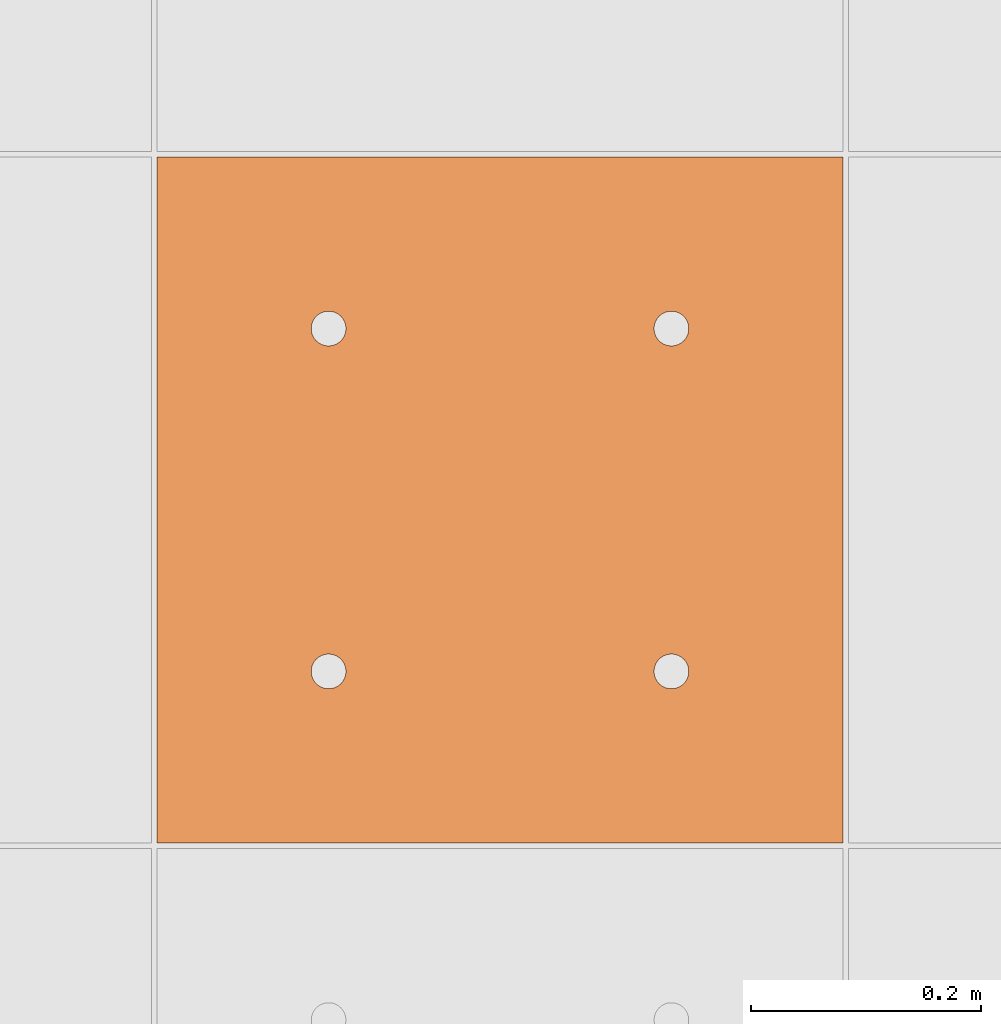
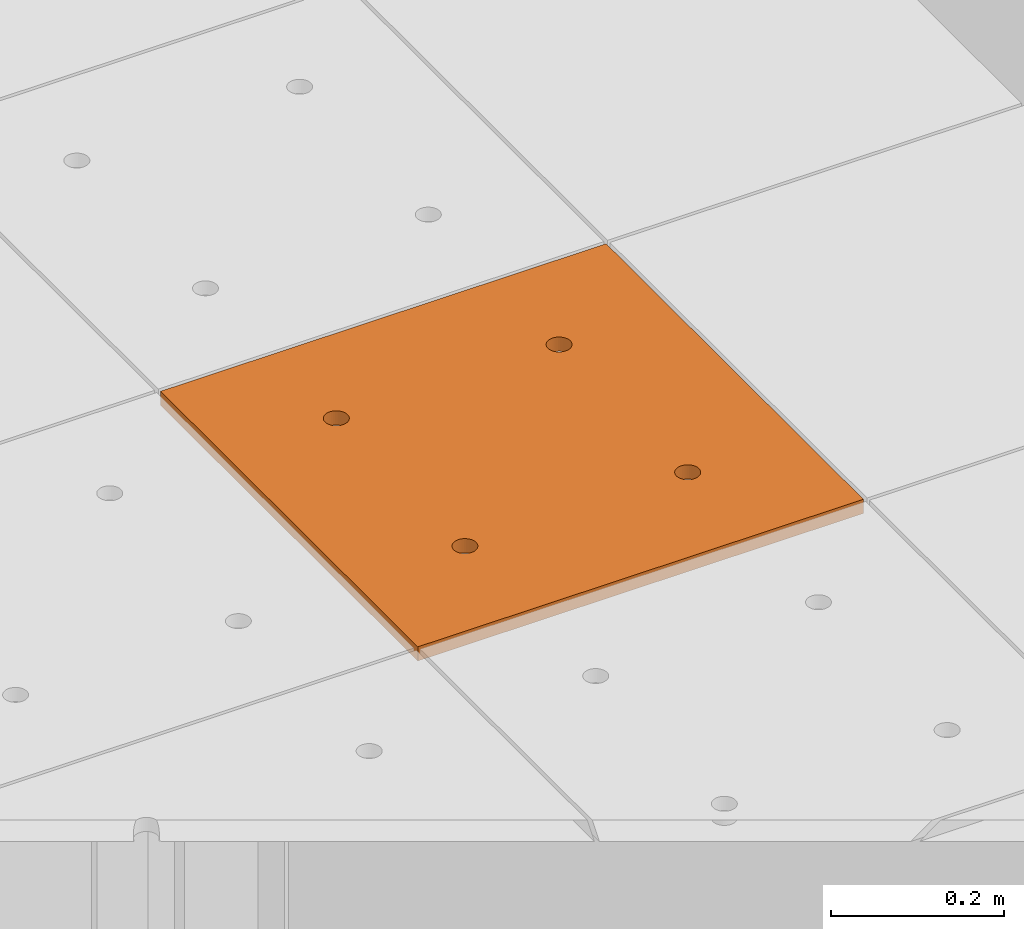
# One storey, part 306 of 338: 1 proxy, 1 element without a shape of its own.
"""IFC2X3 building model written with IfcOpenShell, lengths in millimetres."""

from ifc_helpers import new_model, entity, si_unit, converted_unit, derived_unit, money_unit, direction, frame, origin_with_axes, place, context, subcontext, project, spatial, faceted_brep, source, transform, mapped, material, type_object, type_shapes, element, aggregate, save


model = new_model("IFC2X3")

# Units and contexts
model_context = context("Model", 3, precision=0.01, world=origin_with_axes(), true_north=direction((0.0, 1.0)))
plan_context = context("Plan", 3, precision=0.01, world=origin_with_axes(), true_north=direction((0.0, 1.0)))
body_context = subcontext(model_context, "Body", "Model", "MODEL_VIEW")
ifc_project = project(units=[si_unit("LENGTHUNIT", "METRE", prefix="MILLI"), si_unit("AREAUNIT", "SQUARE_METRE"), si_unit("VOLUMEUNIT", "CUBIC_METRE"), converted_unit("PLANEANGLEUNIT", "DEGREE", entity("IfcPlaneAngleMeasure", 0.0174532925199), si_unit("PLANEANGLEUNIT", "RADIAN"), dimensions=[0, 0, 0, 0, 0, 0, 0]), money_unit("EUR"), converted_unit("TIMEUNIT", "Year", entity("IfcTimeMeasure", 31556926.0), si_unit("TIMEUNIT", "SECOND"), dimensions=[0, 0, 1, 0, 0, 0, 0]), si_unit("MASSUNIT", "GRAM", prefix="KILO"), si_unit("THERMODYNAMICTEMPERATUREUNIT", "DEGREE_CELSIUS"), si_unit("LUMINOUSINTENSITYUNIT", "LUMEN"), si_unit("ENERGYUNIT", "JOULE", prefix="MEGA"), derived_unit("THERMALCONDUCTANCEUNIT", [(si_unit("POWERUNIT", "WATT"), 1), (si_unit("LENGTHUNIT", "METRE"), -1), (si_unit("THERMODYNAMICTEMPERATUREUNIT", "KELVIN"), -1)]), derived_unit("SPECIFICHEATCAPACITYUNIT", [(si_unit("ENERGYUNIT", "JOULE"), 1), (si_unit("MASSUNIT", "GRAM", prefix="KILO"), -1), (si_unit("THERMODYNAMICTEMPERATUREUNIT", "KELVIN"), -1)]), derived_unit("MASSDENSITYUNIT", [(si_unit("MASSUNIT", "GRAM", prefix="KILO"), 1), (si_unit("VOLUMEUNIT", "CUBIC_METRE"), -1)])], contexts=[model_context, plan_context])

# Site, building, storey
site_placement = place(None, origin_with_axes())
site = spatial("IfcSite", under=ifc_project, at=site_placement, Name="Fortuinstraat Woensdrecht", CompositionType="ELEMENT")
building_placement = place(site_placement, origin_with_axes())
building = spatial("IfcBuilding", under=site, at=building_placement, Name="IKC Fortuna", CompositionType="ELEMENT")
storey_placement = place(building_placement, origin_with_axes())
storey = spatial("IfcBuildingStorey", under=building, at=storey_placement, Name="00 begane grond", CompositionType="ELEMENT", Elevation=0.0)

# Covering, proxy
covering_type = type_object("IfcCoveringType", Name="Curtain Wall Type", PredefinedType="CEILING")
covering_placement = place(storey_placement, frame((24394.3550152, 31482.3495284, 3210.0), z_axis=(0.0, 0.0, 1.0), x_axis=(1.0, 0.0, 0.0)))
covering = element("IfcCovering", 1, at=covering_placement, inside=storey, type_object=covering_type, Name="45_Plafondafwerking_P01", PredefinedType="CEILING")
ifc_material = material(Name="Gipsplaat")
building_element_proxy_type = type_object("IfcBuildingElementProxyType", Name="Main Panel 600 x 600 x 20", PredefinedType="NOTDEFINED")
shared_shape = source(origin_with_axes(), body_context, "Body", "Brep", [
    faceted_brep([(2.49999999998, 2.49999999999, -10.0), (300.0, 2.49999999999, -10.0), (300.0, 2.49999999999, 10.0), (2.49999999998, 2.49999999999, 10.0), (2.49999999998, 300.0, -10.0), (2.49999999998, 597.5, -10.0), (300.0, 597.5, -10.0), (597.5, 597.5, -10.0), (597.5, 300.0, -10.0), (597.5, 2.49999999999, -10.0), (166.25, 450.06232995, -10.0), (165.79423259, 452.64711538, -10.0), (164.896546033, 455.11348892, -10.0), (163.58421608, 457.38651108, -10.0), (161.897117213, 459.39711721, -10.0), (159.886511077, 461.08421608, -10.0), (157.613488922, 462.39654603, -10.0), (155.147115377, 463.29423259, -10.0), (152.562329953, 463.75, -10.0), (149.937670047, 463.75, -10.0), (147.352884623, 463.29423259, -10.0), (144.886511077, 462.39654603, -10.0), (142.613488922, 461.08421608, -10.0), (140.602882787, 459.39711721, -10.0), (138.91578392, 457.38651108, -10.0), (137.603453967, 455.11348892, -10.0), (136.705767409, 452.64711538, -10.0), (136.25, 450.06232995, -10.0), (136.25, 448.75, -10.0), (136.25, 447.43767005, -10.0), (136.705767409, 444.85288462, -10.0), (137.603453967, 442.38651108, -10.0), (138.91578392, 440.11348892, -10.0), (140.602882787, 438.10288279, -10.0), (142.613488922, 436.41578392, -10.0), (144.886511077, 435.10345397, -10.0), (147.352884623, 434.20576741, -10.0), (149.937670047, 433.75, -10.0), (152.562329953, 433.75, -10.0), (155.147115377, 434.20576741, -10.0), (157.613488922, 435.10345397, -10.0), (159.886511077, 436.41578392, -10.0), (161.897117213, 438.10288279, -10.0), (163.58421608, 440.11348892, -10.0), (164.896546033, 442.38651108, -10.0), (165.79423259, 444.85288462, -10.0), (166.25, 447.43767005, -10.0), (463.75, 450.06232995, -10.0), (463.29423259, 452.64711538, -10.0), (462.396546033, 455.11348892, -10.0), (461.08421608, 457.38651108, -10.0), (459.397117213, 459.39711721, -10.0), (457.386511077, 461.08421608, -10.0), (455.113488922, 462.39654603, -10.0), (452.647115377, 463.29423259, -10.0), (450.062329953, 463.75, -10.0), (447.437670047, 463.75, -10.0), (444.852884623, 463.29423259, -10.0), (442.386511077, 462.39654603, -10.0), (440.113488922, 461.08421608, -10.0), (438.102882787, 459.39711721, -10.0), (436.41578392, 457.38651108, -10.0), (435.103453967, 455.11348892, -10.0), (434.205767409, 452.64711538, -10.0), (433.75, 450.06232995, -10.0), (433.75, 448.75, -10.0), (433.75, 447.43767005, -10.0), (434.205767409, 444.85288462, -10.0), (435.103453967, 442.38651108, -10.0), (436.41578392, 440.11348892, -10.0), (438.102882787, 438.10288279, -10.0), (440.113488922, 436.41578392, -10.0), (442.386511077, 435.10345397, -10.0), (444.852884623, 434.20576741, -10.0), (447.437670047, 433.75, -10.0), (450.062329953, 433.75, -10.0), (452.647115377, 434.20576741, -10.0), (455.113488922, 435.10345397, -10.0), (457.386511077, 436.41578392, -10.0), (459.397117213, 438.10288279, -10.0), (461.08421608, 440.11348892, -10.0), (462.396546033, 442.38651108, -10.0), (463.29423259, 444.85288462, -10.0), (463.75, 447.43767005, -10.0), (463.75, 152.56232995, -10.0), (463.29423259, 155.14711538, -10.0), (462.396546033, 157.61348892, -10.0), (461.08421608, 159.88651108, -10.0), (459.397117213, 161.89711721, -10.0), (457.386511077, 163.58421608, -10.0), (455.113488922, 164.89654603, -10.0), (452.647115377, 165.79423259, -10.0), (450.062329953, 166.25, -10.0), (447.437670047, 166.25, -10.0), (444.852884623, 165.79423259, -10.0), (442.386511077, 164.89654603, -10.0), (440.113488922, 163.58421608, -10.0), (438.102882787, 161.89711721, -10.0), (436.41578392, 159.88651108, -10.0), (435.103453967, 157.61348892, -10.0), (434.205767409, 155.14711538, -10.0), (433.75, 152.56232995, -10.0), (433.75, 151.25, -10.0), (433.75, 149.93767005, -10.0), (434.205767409, 147.35288462, -10.0), (435.103453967, 144.88651108, -10.0), (436.41578392, 142.61348892, -10.0), (438.102882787, 140.60288279, -10.0), (440.113488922, 138.91578392, -10.0), (442.386511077, 137.60345397, -10.0), (444.852884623, 136.70576741, -10.0), (447.437670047, 136.25, -10.0), (450.062329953, 136.25, -10.0), (452.647115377, 136.70576741, -10.0), (455.113488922, 137.60345397, -10.0), (457.386511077, 138.91578392, -10.0), (459.397117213, 140.60288279, -10.0), (461.08421608, 142.61348892, -10.0), (462.396546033, 144.88651108, -10.0), (463.29423259, 147.35288462, -10.0), (463.75, 149.93767005, -10.0), (166.25, 152.56232995, -10.0), (165.79423259, 155.14711538, -10.0), (164.896546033, 157.61348892, -10.0), (163.58421608, 159.88651108, -10.0), (161.897117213, 161.89711721, -10.0), (159.886511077, 163.58421608, -10.0), (157.613488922, 164.89654603, -10.0), (155.147115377, 165.79423259, -10.0), (152.562329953, 166.25, -10.0), (149.937670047, 166.25, -10.0), (147.352884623, 165.79423259, -10.0), (144.886511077, 164.89654603, -10.0), (142.613488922, 163.58421608, -10.0), (140.602882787, 161.89711721, -10.0), (138.91578392, 159.88651108, -10.0), (137.603453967, 157.61348892, -10.0), (136.705767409, 155.14711538, -10.0), (136.25, 152.56232995, -10.0), (136.25, 151.25, -10.0), (136.25, 149.93767005, -10.0), (136.705767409, 147.35288462, -10.0), (137.603453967, 144.88651108, -10.0), (138.91578392, 142.61348892, -10.0), (140.602882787, 140.60288279, -10.0), (142.613488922, 138.91578392, -10.0), (144.886511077, 137.60345397, -10.0), (147.352884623, 136.70576741, -10.0), (149.937670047, 136.25, -10.0), (152.562329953, 136.25, -10.0), (155.147115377, 136.70576741, -10.0), (157.613488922, 137.60345397, -10.0), (159.886511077, 138.91578392, -10.0), (161.897117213, 140.60288279, -10.0), (163.58421608, 142.61348892, -10.0), (164.896546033, 144.88651108, -10.0), (165.79423259, 147.35288462, -10.0), (166.25, 149.93767005, -10.0), (597.5, 2.49999999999, 10.0), (597.5, 300.0, 10.0), (597.5, 597.5, 10.0), (300.0, 597.5, 10.0), (2.49999999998, 597.5, 10.0), (2.49999999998, 300.0, 10.0), (166.25, 450.06232995, 10.0), (166.25, 447.43767005, 10.0), (165.79423259, 444.85288462, 10.0), (164.896546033, 442.38651108, 10.0), (163.58421608, 440.11348892, 10.0), (161.897117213, 438.10288279, 10.0), (159.886511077, 436.41578392, 10.0), (157.613488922, 435.10345397, 10.0), (155.147115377, 434.20576741, 10.0), (152.562329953, 433.75, 10.0), (149.937670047, 433.75, 10.0), (147.352884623, 434.20576741, 10.0), (144.886511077, 435.10345397, 10.0), (142.613488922, 436.41578392, 10.0), (140.602882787, 438.10288279, 10.0), (138.91578392, 440.11348892, 10.0), (137.603453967, 442.38651108, 10.0), (136.705767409, 444.85288462, 10.0), (136.25, 447.43767005, 10.0), (136.25, 448.75, 10.0), (136.25, 450.06232995, 10.0), (136.705767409, 452.64711538, 10.0), (137.603453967, 455.11348892, 10.0), (138.91578392, 457.38651108, 10.0), (140.602882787, 459.39711721, 10.0), (142.613488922, 461.08421608, 10.0), (144.886511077, 462.39654603, 10.0), (147.352884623, 463.29423259, 10.0), (149.937670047, 463.75, 10.0), (152.562329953, 463.75, 10.0), (155.147115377, 463.29423259, 10.0), (157.613488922, 462.39654603, 10.0), (159.886511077, 461.08421608, 10.0), (161.897117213, 459.39711721, 10.0), (163.58421608, 457.38651108, 10.0), (164.896546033, 455.11348892, 10.0), (165.79423259, 452.64711538, 10.0), (463.75, 450.06232995, 10.0), (463.75, 447.43767005, 10.0), (463.29423259, 444.85288462, 10.0), (462.396546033, 442.38651108, 10.0), (461.08421608, 440.11348892, 10.0), (459.397117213, 438.10288279, 10.0), (457.386511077, 436.41578392, 10.0), (455.113488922, 435.10345397, 10.0), (452.647115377, 434.20576741, 10.0), (450.062329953, 433.75, 10.0), (447.437670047, 433.75, 10.0), (444.852884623, 434.20576741, 10.0), (442.386511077, 435.10345397, 10.0), (440.113488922, 436.41578392, 10.0), (438.102882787, 438.10288279, 10.0), (436.41578392, 440.11348892, 10.0), (435.103453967, 442.38651108, 10.0), (434.205767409, 444.85288462, 10.0), (433.75, 447.43767005, 10.0), (433.75, 448.75, 10.0), (433.75, 450.06232995, 10.0), (434.205767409, 452.64711538, 10.0), (435.103453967, 455.11348892, 10.0), (436.41578392, 457.38651108, 10.0), (438.102882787, 459.39711721, 10.0), (440.113488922, 461.08421608, 10.0), (442.386511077, 462.39654603, 10.0), (444.852884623, 463.29423259, 10.0), (447.437670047, 463.75, 10.0), (450.062329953, 463.75, 10.0), (452.647115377, 463.29423259, 10.0), (455.113488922, 462.39654603, 10.0), (457.386511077, 461.08421608, 10.0), (459.397117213, 459.39711721, 10.0), (461.08421608, 457.38651108, 10.0), (462.396546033, 455.11348892, 10.0), (463.29423259, 452.64711538, 10.0), (463.75, 152.56232995, 10.0), (463.75, 149.93767005, 10.0), (463.29423259, 147.35288462, 10.0), (462.396546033, 144.88651108, 10.0), (461.08421608, 142.61348892, 10.0), (459.397117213, 140.60288279, 10.0), (457.386511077, 138.91578392, 10.0), (455.113488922, 137.60345397, 10.0), (452.647115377, 136.70576741, 10.0), (450.062329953, 136.25, 10.0), (447.437670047, 136.25, 10.0), (444.852884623, 136.70576741, 10.0), (442.386511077, 137.60345397, 10.0), (440.113488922, 138.91578392, 10.0), (438.102882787, 140.60288279, 10.0), (436.41578392, 142.61348892, 10.0), (435.103453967, 144.88651108, 10.0), (434.205767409, 147.35288462, 10.0), (433.75, 149.93767005, 10.0), (433.75, 151.25, 10.0), (433.75, 152.56232995, 10.0), (434.205767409, 155.14711538, 10.0), (435.103453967, 157.61348892, 10.0), (436.41578392, 159.88651108, 10.0), (438.102882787, 161.89711721, 10.0), (440.113488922, 163.58421608, 10.0), (442.386511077, 164.89654603, 10.0), (444.852884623, 165.79423259, 10.0), (447.437670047, 166.25, 10.0), (450.062329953, 166.25, 10.0), (452.647115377, 165.79423259, 10.0), (455.113488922, 164.89654603, 10.0), (457.386511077, 163.58421608, 10.0), (459.397117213, 161.89711721, 10.0), (461.08421608, 159.88651108, 10.0), (462.396546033, 157.61348892, 10.0), (463.29423259, 155.14711538, 10.0), (166.25, 152.56232995, 10.0), (166.25, 149.93767005, 10.0), (165.79423259, 147.35288462, 10.0), (164.896546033, 144.88651108, 10.0), (163.58421608, 142.61348892, 10.0), (161.897117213, 140.60288279, 10.0), (159.886511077, 138.91578392, 10.0), (157.613488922, 137.60345397, 10.0), (155.147115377, 136.70576741, 10.0), (152.562329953, 136.25, 10.0), (149.937670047, 136.25, 10.0), (147.352884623, 136.70576741, 10.0), (144.886511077, 137.60345397, 10.0), (142.613488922, 138.91578392, 10.0), (140.602882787, 140.60288279, 10.0), (138.91578392, 142.61348892, 10.0), (137.603453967, 144.88651108, 10.0), (136.705767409, 147.35288462, 10.0), (136.25, 149.93767005, 10.0), (136.25, 151.25, 10.0), (136.25, 152.56232995, 10.0), (136.705767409, 155.14711538, 10.0), (137.603453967, 157.61348892, 10.0), (138.91578392, 159.88651108, 10.0), (140.602882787, 161.89711721, 10.0), (142.613488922, 163.58421608, 10.0), (144.886511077, 164.89654603, 10.0), (147.352884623, 165.79423259, 10.0), (149.937670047, 166.25, 10.0), (152.562329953, 166.25, 10.0), (155.147115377, 165.79423259, 10.0), (157.613488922, 164.89654603, 10.0), (159.886511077, 163.58421608, 10.0), (161.897117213, 161.89711721, 10.0), (163.58421608, 159.88651108, 10.0), (164.896546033, 157.61348892, 10.0), (165.79423259, 155.14711538, 10.0)], [[[0, 1, 2, 3]], [[0, 4, 5, 6, 7, 8, 9, 1], [10, 11, 12, 13, 14, 15, 16, 17, 18, 19, 20, 21, 22, 23, 24, 25, 26, 27, 28, 29, 30, 31, 32, 33, 34, 35, 36, 37, 38, 39, 40, 41, 42, 43, 44, 45, 46], [47, 48, 49, 50, 51, 52, 53, 54, 55, 56, 57, 58, 59, 60, 61, 62, 63, 64, 65, 66, 67, 68, 69, 70, 71, 72, 73, 74, 75, 76, 77, 78, 79, 80, 81, 82, 83], [84, 85, 86, 87, 88, 89, 90, 91, 92, 93, 94, 95, 96, 97, 98, 99, 100, 101, 102, 103, 104, 105, 106, 107, 108, 109, 110, 111, 112, 113, 114, 115, 116, 117, 118, 119, 120], [121, 122, 123, 124, 125, 126, 127, 128, 129, 130, 131, 132, 133, 134, 135, 136, 137, 138, 139, 140, 141, 142, 143, 144, 145, 146, 147, 148, 149, 150, 151, 152, 153, 154, 155, 156, 157]], [[1, 9, 158, 2]], [[3, 2, 158, 159, 160, 161, 162, 163], [164, 165, 166, 167, 168, 169, 170, 171, 172, 173, 174, 175, 176, 177, 178, 179, 180, 181, 182, 183, 184, 185, 186, 187, 188, 189, 190, 191, 192, 193, 194, 195, 196, 197, 198, 199, 200], [201, 202, 203, 204, 205, 206, 207, 208, 209, 210, 211, 212, 213, 214, 215, 216, 217, 218, 219, 220, 221, 222, 223, 224, 225, 226, 227, 228, 229, 230, 231, 232, 233, 234, 235, 236, 237], [238, 239, 240, 241, 242, 243, 244, 245, 246, 247, 248, 249, 250, 251, 252, 253, 254, 255, 256, 257, 258, 259, 260, 261, 262, 263, 264, 265, 266, 267, 268, 269, 270, 271, 272, 273, 274], [275, 276, 277, 278, 279, 280, 281, 282, 283, 284, 285, 286, 287, 288, 289, 290, 291, 292, 293, 294, 295, 296, 297, 298, 299, 300, 301, 302, 303, 304, 305, 306, 307, 308, 309, 310, 311]], [[4, 0, 3, 163]], [[5, 4, 163, 162]], [[6, 5, 162, 161]], [[7, 6, 161, 160]], [[8, 7, 160, 159]], [[9, 8, 159, 158]], [[11, 10, 164, 200]], [[12, 11, 200, 199]], [[13, 12, 199, 198]], [[14, 13, 198, 197]], [[15, 14, 197, 196]], [[16, 15, 196, 195]], [[17, 16, 195, 194]], [[18, 17, 194, 193]], [[19, 18, 193, 192]], [[20, 19, 192, 191]], [[21, 20, 191, 190]], [[22, 21, 190, 189]], [[23, 22, 189, 188]], [[24, 23, 188, 187]], [[25, 24, 187, 186]], [[26, 25, 186, 185]], [[27, 26, 185, 184]], [[28, 27, 184, 183]], [[29, 28, 183, 182]], [[30, 29, 182, 181]], [[31, 30, 181, 180]], [[32, 31, 180, 179]], [[33, 32, 179, 178]], [[34, 33, 178, 177]], [[35, 34, 177, 176]], [[36, 35, 176, 175]], [[37, 36, 175, 174]], [[38, 37, 174, 173]], [[39, 38, 173, 172]], [[40, 39, 172, 171]], [[41, 40, 171, 170]], [[42, 41, 170, 169]], [[43, 42, 169, 168]], [[44, 43, 168, 167]], [[45, 44, 167, 166]], [[46, 45, 166, 165]], [[10, 46, 165, 164]], [[48, 47, 201, 237]], [[49, 48, 237, 236]], [[50, 49, 236, 235]], [[51, 50, 235, 234]], [[52, 51, 234, 233]], [[53, 52, 233, 232]], [[54, 53, 232, 231]], [[55, 54, 231, 230]], [[56, 55, 230, 229]], [[57, 56, 229, 228]], [[58, 57, 228, 227]], [[59, 58, 227, 226]], [[60, 59, 226, 225]], [[61, 60, 225, 224]], [[62, 61, 224, 223]], [[63, 62, 223, 222]], [[64, 63, 222, 221]], [[65, 64, 221, 220]], [[66, 65, 220, 219]], [[67, 66, 219, 218]], [[68, 67, 218, 217]], [[69, 68, 217, 216]], [[70, 69, 216, 215]], [[71, 70, 215, 214]], [[72, 71, 214, 213]], [[73, 72, 213, 212]], [[74, 73, 212, 211]], [[75, 74, 211, 210]], [[76, 75, 210, 209]], [[77, 76, 209, 208]], [[78, 77, 208, 207]], [[79, 78, 207, 206]], [[80, 79, 206, 205]], [[81, 80, 205, 204]], [[82, 81, 204, 203]], [[83, 82, 203, 202]], [[47, 83, 202, 201]], [[85, 84, 238, 274]], [[86, 85, 274, 273]], [[87, 86, 273, 272]], [[88, 87, 272, 271]], [[89, 88, 271, 270]], [[90, 89, 270, 269]], [[91, 90, 269, 268]], [[92, 91, 268, 267]], [[93, 92, 267, 266]], [[94, 93, 266, 265]], [[95, 94, 265, 264]], [[96, 95, 264, 263]], [[97, 96, 263, 262]], [[98, 97, 262, 261]], [[99, 98, 261, 260]], [[100, 99, 260, 259]], [[101, 100, 259, 258]], [[102, 101, 258, 257]], [[103, 102, 257, 256]], [[104, 103, 256, 255]], [[105, 104, 255, 254]], [[106, 105, 254, 253]], [[107, 106, 253, 252]], [[108, 107, 252, 251]], [[109, 108, 251, 250]], [[110, 109, 250, 249]], [[111, 110, 249, 248]], [[112, 111, 248, 247]], [[113, 112, 247, 246]], [[114, 113, 246, 245]], [[115, 114, 245, 244]], [[116, 115, 244, 243]], [[117, 116, 243, 242]], [[118, 117, 242, 241]], [[119, 118, 241, 240]], [[120, 119, 240, 239]], [[84, 120, 239, 238]], [[122, 121, 275, 311]], [[123, 122, 311, 310]], [[124, 123, 310, 309]], [[125, 124, 309, 308]], [[126, 125, 308, 307]], [[127, 126, 307, 306]], [[128, 127, 306, 305]], [[129, 128, 305, 304]], [[130, 129, 304, 303]], [[131, 130, 303, 302]], [[132, 131, 302, 301]], [[133, 132, 301, 300]], [[134, 133, 300, 299]], [[135, 134, 299, 298]], [[136, 135, 298, 297]], [[137, 136, 297, 296]], [[138, 137, 296, 295]], [[139, 138, 295, 294]], [[140, 139, 294, 293]], [[141, 140, 293, 292]], [[142, 141, 292, 291]], [[143, 142, 291, 290]], [[144, 143, 290, 289]], [[145, 144, 289, 288]], [[146, 145, 288, 287]], [[147, 146, 287, 286]], [[148, 147, 286, 285]], [[149, 148, 285, 284]], [[150, 149, 284, 283]], [[151, 150, 283, 282]], [[152, 151, 282, 281]], [[153, 152, 281, 280]], [[154, 153, 280, 279]], [[155, 154, 279, 278]], [[156, 155, 278, 277]], [[157, 156, 277, 276]], [[121, 157, 276, 275]]]),
])
type_shapes(building_element_proxy_type, [shared_shape])
proxy_placement = place(covering_placement, frame((3600.0, 1800.0, 0.0), z_axis=(0.0, 0.0, 1.0), x_axis=(1.0, 0.0, 0.0)))
proxy = element("IfcBuildingElementProxy", 2, at=proxy_placement, type_object=building_element_proxy_type, material=ifc_material, Name="__600x616 Rockfon Krios", context=body_context, shape_type="MappedRepresentation", body=[
    mapped(shared_shape, transform((300.0, 300.0, 0.0), x_axis=(-1.0, 0.0, 0.0), y_axis=(0.0, -1.0, 0.0), z_axis=(0.0, 0.0, 1.0))),
])
aggregate(covering, [proxy])

save(model, "model.ifc")
